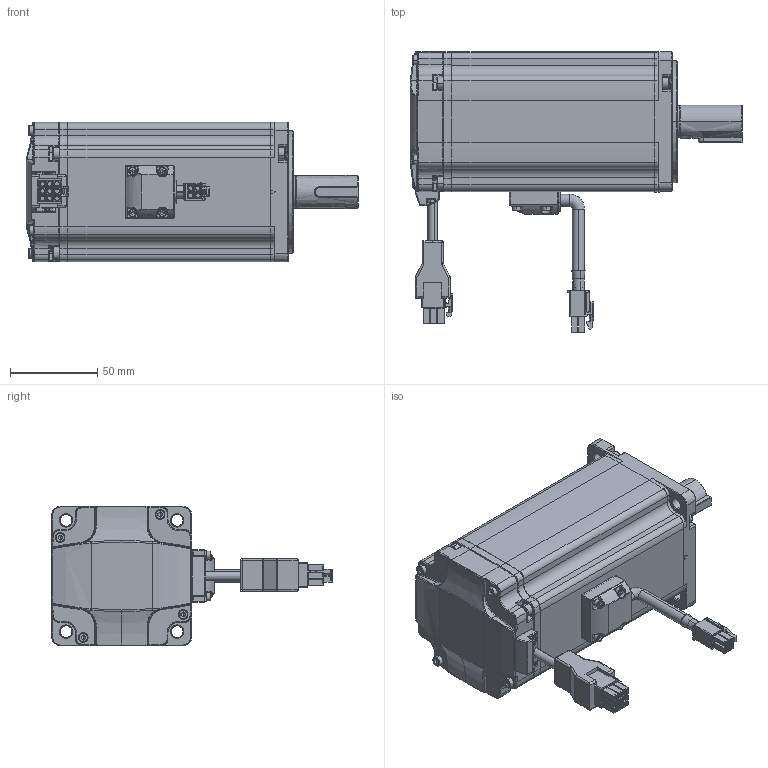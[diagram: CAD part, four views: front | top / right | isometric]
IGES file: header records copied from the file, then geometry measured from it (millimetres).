
Start section: SolidWorks IGES file using analytic representation for surfaces
Global section: file name: D:\¹¤×÷\2023.11\2023.11.10\1\EM3J-10ALA241.IGS; native system: SolidWorks 2018; preprocessor: SolidWorks 2018; author: wangyitong; date: 231116.103429; units: millimetre
Bounding box: 190 x 160.49 x 80 mm (x, y, z)
Surface area: 131502.5 mm2 (no closed solid volume)
Topology: 0 solids, 0 shells, 2362 faces, 23160 edges, 23065 vertices
Faces by surface type: bspline 1333, revolution 1029
